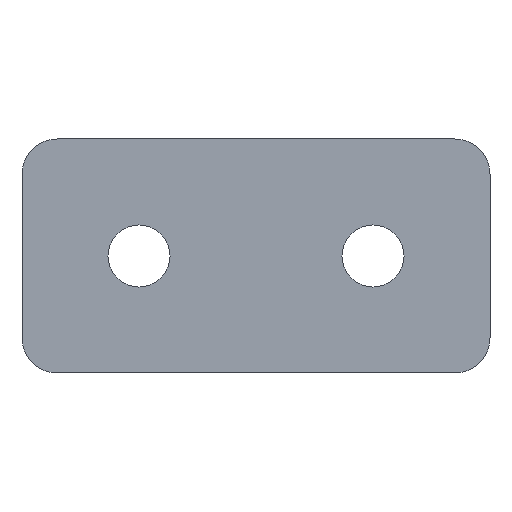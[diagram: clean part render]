
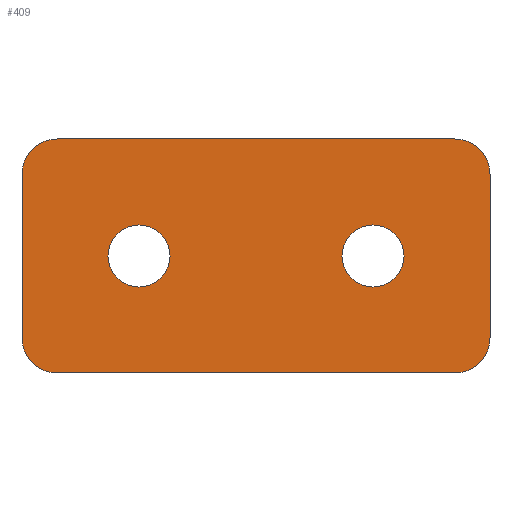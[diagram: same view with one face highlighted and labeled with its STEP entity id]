
A CAD part, front view. The second image highlights one B-rep face of the part: STEP entity #409.
In plain terms, the highlighted planar face has unit normal (0, -1, 0).
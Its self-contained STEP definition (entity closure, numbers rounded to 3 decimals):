
#2=CARTESIAN_POINT('',(-10.,0.,0.));
#3=DIRECTION('',(0.,1.,0.));
#4=DIRECTION('',(1.,0.,0.));
#5=AXIS2_PLACEMENT_3D('',#2,#3,#4);
#7=CARTESIAN_POINT('',(-10.,0.,0.));
#8=DIRECTION('',(0.,1.,0.));
#9=DIRECTION('',(-1.,0.,0.));
#10=AXIS2_PLACEMENT_3D('',#7,#8,#9);
#12=CARTESIAN_POINT('',(10.,0.,0.));
#13=DIRECTION('',(0.,1.,0.));
#14=DIRECTION('',(1.,0.,0.));
#15=AXIS2_PLACEMENT_3D('',#12,#13,#14);
#17=CARTESIAN_POINT('',(10.,0.,0.));
#18=DIRECTION('',(0.,1.,0.));
#19=DIRECTION('',(-1.,0.,0.));
#20=AXIS2_PLACEMENT_3D('',#17,#18,#19);
#22=CARTESIAN_POINT('',(-17.,0.,7.));
#23=DIRECTION('',(0.,-1.,0.));
#24=DIRECTION('',(0.,0.,1.));
#25=AXIS2_PLACEMENT_3D('',#22,#23,#24);
#27=DIRECTION('',(1.,0.,0.));
#28=VECTOR('',#27,34.);
#29=CARTESIAN_POINT('',(-17.,0.,10.));
#30=LINE('',#29,#28);
#31=CARTESIAN_POINT('',(17.,0.,7.));
#32=DIRECTION('',(0.,-1.,0.));
#33=DIRECTION('',(1.,0.,0.));
#34=AXIS2_PLACEMENT_3D('',#31,#32,#33);
#36=DIRECTION('',(0.,0.,-1.));
#37=VECTOR('',#36,14.);
#38=CARTESIAN_POINT('',(20.,0.,7.));
#39=LINE('',#38,#37);
#40=CARTESIAN_POINT('',(17.,0.,-7.));
#41=DIRECTION('',(0.,-1.,0.));
#42=DIRECTION('',(0.,0.,-1.));
#43=AXIS2_PLACEMENT_3D('',#40,#41,#42);
#45=DIRECTION('',(-1.,0.,0.));
#46=VECTOR('',#45,34.);
#47=CARTESIAN_POINT('',(17.,0.,-10.));
#48=LINE('',#47,#46);
#49=CARTESIAN_POINT('',(-17.,0.,-7.));
#50=DIRECTION('',(0.,-1.,0.));
#51=DIRECTION('',(-1.,0.,0.));
#52=AXIS2_PLACEMENT_3D('',#49,#50,#51);
#54=DIRECTION('',(0.,0.,1.));
#55=VECTOR('',#54,14.);
#56=CARTESIAN_POINT('',(-20.,0.,-7.));
#57=LINE('',#56,#55);
#310=CARTESIAN_POINT('',(-7.35,0.,0.));
#311=CARTESIAN_POINT('',(-12.65,0.,0.));
#312=VERTEX_POINT('',#310);
#313=VERTEX_POINT('',#311);
#318=CARTESIAN_POINT('',(12.65,0.,0.));
#319=CARTESIAN_POINT('',(7.35,0.,0.));
#320=VERTEX_POINT('',#318);
#321=VERTEX_POINT('',#319);
#326=CARTESIAN_POINT('',(-17.,0.,10.));
#327=CARTESIAN_POINT('',(-20.,0.,7.));
#328=VERTEX_POINT('',#326);
#329=VERTEX_POINT('',#327);
#330=CARTESIAN_POINT('',(20.,0.,7.));
#331=CARTESIAN_POINT('',(17.,0.,10.));
#332=VERTEX_POINT('',#330);
#333=VERTEX_POINT('',#331);
#334=CARTESIAN_POINT('',(17.,0.,-10.));
#335=CARTESIAN_POINT('',(20.,0.,-7.));
#336=VERTEX_POINT('',#334);
#337=VERTEX_POINT('',#335);
#338=CARTESIAN_POINT('',(-20.,0.,-7.));
#339=CARTESIAN_POINT('',(-17.,0.,-10.));
#340=VERTEX_POINT('',#338);
#341=VERTEX_POINT('',#339);
#374=CARTESIAN_POINT('',(0.,0.,0.));
#375=DIRECTION('',(0.,1.,0.));
#376=DIRECTION('',(1.,0.,0.));
#377=AXIS2_PLACEMENT_3D('',#374,#375,#376);
#378=PLANE('',#377);
#380=ORIENTED_EDGE('',*,*,#379,.F.);
#382=ORIENTED_EDGE('',*,*,#381,.T.);
#384=ORIENTED_EDGE('',*,*,#383,.F.);
#386=ORIENTED_EDGE('',*,*,#385,.T.);
#388=ORIENTED_EDGE('',*,*,#387,.F.);
#390=ORIENTED_EDGE('',*,*,#389,.T.);
#392=ORIENTED_EDGE('',*,*,#391,.F.);
#394=ORIENTED_EDGE('',*,*,#393,.T.);
#395=EDGE_LOOP('',(#380,#382,#384,#386,#388,#390,#392,#394));
#396=FACE_OUTER_BOUND('',#395,.F.);
#398=ORIENTED_EDGE('',*,*,#397,.F.);
#400=ORIENTED_EDGE('',*,*,#399,.F.);
#401=EDGE_LOOP('',(#398,#400));
#402=FACE_BOUND('',#401,.F.);
#404=ORIENTED_EDGE('',*,*,#403,.F.);
#406=ORIENTED_EDGE('',*,*,#405,.F.);
#407=EDGE_LOOP('',(#404,#406));
#408=FACE_BOUND('',#407,.F.);
#409=ADVANCED_FACE('',(#396,#402,#408),#378,.F.);
#6=CIRCLE('',#5,2.65);
#11=CIRCLE('',#10,2.65);
#16=CIRCLE('',#15,2.65);
#21=CIRCLE('',#20,2.65);
#26=CIRCLE('',#25,3.);
#35=CIRCLE('',#34,3.);
#44=CIRCLE('',#43,3.);
#53=CIRCLE('',#52,3.);
#379=EDGE_CURVE('',#328,#329,#26,.T.);
#381=EDGE_CURVE('',#328,#333,#30,.T.);
#383=EDGE_CURVE('',#332,#333,#35,.T.);
#385=EDGE_CURVE('',#332,#337,#39,.T.);
#387=EDGE_CURVE('',#336,#337,#44,.T.);
#389=EDGE_CURVE('',#336,#341,#48,.T.);
#391=EDGE_CURVE('',#340,#341,#53,.T.);
#393=EDGE_CURVE('',#340,#329,#57,.T.);
#397=EDGE_CURVE('',#320,#321,#16,.T.);
#399=EDGE_CURVE('',#321,#320,#21,.T.);
#403=EDGE_CURVE('',#312,#313,#6,.T.);
#405=EDGE_CURVE('',#313,#312,#11,.T.);
